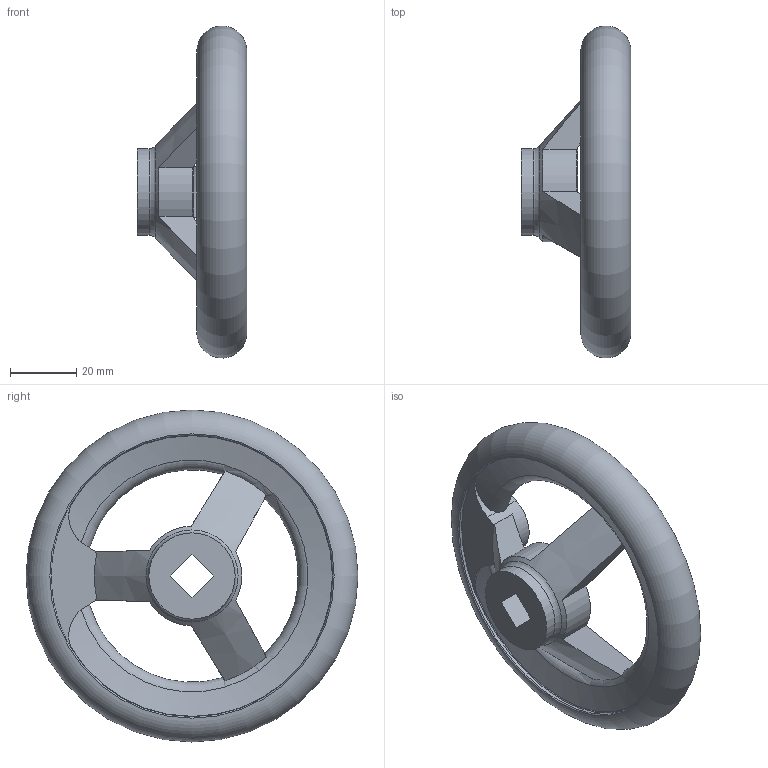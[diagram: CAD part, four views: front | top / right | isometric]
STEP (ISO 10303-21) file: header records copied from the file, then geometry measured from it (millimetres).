
FILE_DESCRIPTION( ( 'STEP AP203' ), '1' );
FILE_NAME( 'C:/Temp/Ganter_Step_05_03_2020/data/1_3/din_950/din_950_v/din_950_v_a/Handwheel DIN 950-AL-100-V9-A.stp', '2020-03-05T10:31:31', ( 'License CC BY-ND 4.0' ), ( 'CADENAS' ), ' ', 'PARTsolutions', ' ' );
FILE_SCHEMA( ( 'CONFIG_CONTROL_DESIGN' ) );
Length unit declared in the file: millimetre
Products named in the file (1): _Handwheel DIN 950-AL-100-V9-A
Bounding box: 33 x 99.97 x 99.97 mm (x, y, z)
Volume: 64665.8 mm3; surface area: 19500.6 mm2
Topology: 1 solids, 1 shells, 40 faces, 116 edges, 74 vertices
Faces by surface type: plane 14, cylinder 12, torus 10, cone 4
Full cylindrical faces by diameter (mm): 26 x2, 85 x2
Entity records: 1560 total; most frequent: CARTESIAN_POINT 564, ORIENTED_EDGE 198, DIRECTION 182, EDGE_CURVE 99, AXIS2_PLACEMENT_3D 79, VERTEX_POINT 71, EDGE_LOOP 57, FACE_OUTER_BOUND 51
